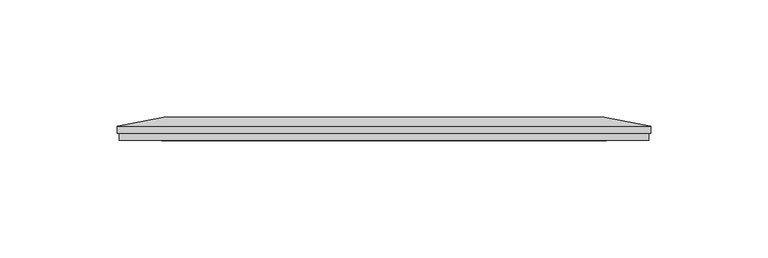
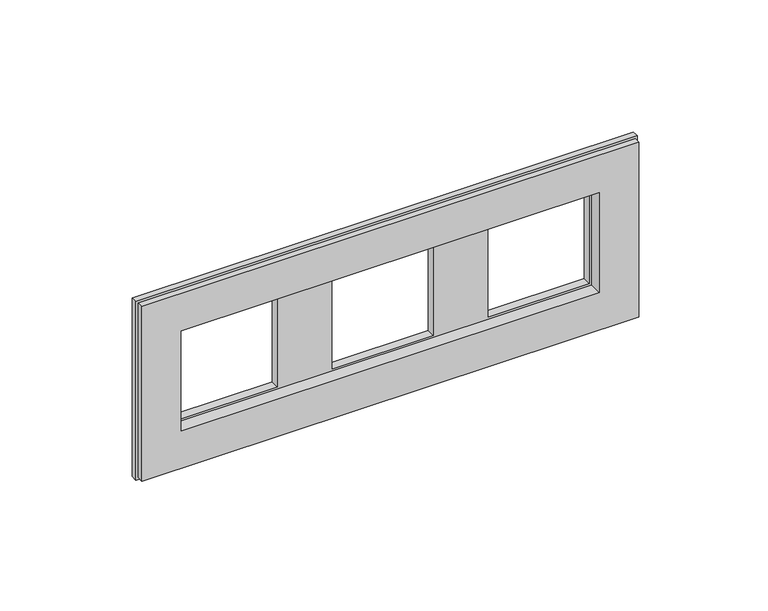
"""IFC4 building model written with IfcOpenShell, lengths in millimetres: proxy geometry, IEK_Skandy_Рамка : x3_SK-F03B."""

from ifc_helpers import new_model, si_unit, origin, place, context, project, spatial, faceted_brep, source, transform, mapped, element, save


def electrical_fixtures_dbfd30bd(model_context):
    return source(origin(), model_context, "Body", "Brep", [
        faceted_brep([(-184.0, 0.0, 42.0), (-184.0, 0.0, -42.0), (42.0, 0.0, -42.0), (42.0, 0.0, 42.0), (-166.0, 0.0, 24.0), (24.0, 0.0, 24.0), (24.0, 0.0, -24.0), (-166.0, 0.0, -24.0), (-184.0, 3.0, 42.0), (-184.0, 3.0, -42.0), (42.0, 3.0, -42.0), (42.0, 3.0, 42.0), (-166.0, 6.0, 24.0), (24.0, 6.0, 24.0), (24.0, 6.0, -24.0), (-166.0, 6.0, -24.0), (-23.0, 10.0, 23.0), (-23.0, 10.0, -23.0), (-48.0, 10.0, -23.0), (-48.0, 10.0, 23.0), (-119.0, 10.0, -23.0), (-119.0, 10.0, 23.0), (-94.0, 10.0, 23.0), (-94.0, 10.0, -23.0), (-23.0, 6.0, 23.0), (23.0, 6.0, 23.0), (23.0, 6.0, -23.0), (-23.0, 6.0, -23.0), (-165.0, 6.0, 23.0), (-119.0, 6.0, 23.0), (-119.0, 6.0, -23.0), (-165.0, 6.0, -23.0), (-94.0, 6.0, 23.0), (-48.0, 6.0, 23.0), (-48.0, 6.0, -23.0), (-94.0, 6.0, -23.0), (43.0, 6.0, 43.0), (23.0, 10.0, 23.0), (-165.0, 10.0, 23.0), (-185.0, 6.0, 43.0), (43.0, 6.0, -43.0), (23.0, 10.0, -23.0), (-185.0, 6.0, -43.0), (-165.0, 10.0, -23.0), (-185.0, 3.0, 43.0), (-185.0, 3.0, -43.0), (43.0, 3.0, -43.0), (43.0, 3.0, 43.0)], [[[0, 1, 2, 3], [4, 5, 6, 7]], [[1, 0, 8, 9]], [[2, 1, 9, 10]], [[3, 2, 10, 11]], [[0, 3, 11, 8]], [[5, 4, 12, 13]], [[6, 5, 13, 14]], [[7, 6, 14, 15]], [[4, 7, 15, 12]], [[16, 17, 18, 19]], [[20, 21, 22, 23]], [[13, 12, 15, 14], [24, 25, 26, 27], [28, 29, 30, 31], [32, 33, 34, 35]], [[36, 37, 16, 19, 22, 21, 38, 39]], [[37, 36, 40, 41]], [[41, 40, 42, 43, 20, 23, 18, 17]], [[39, 38, 43, 42]], [[44, 45, 46, 47], [9, 8, 11, 10]], [[45, 44, 39, 42]], [[46, 45, 42, 40]], [[47, 46, 40, 36]], [[44, 47, 36, 39]], [[28, 38, 21, 29]], [[29, 21, 20, 30]], [[30, 20, 43, 31]], [[38, 28, 31, 43]], [[24, 16, 37, 25]], [[25, 37, 41, 26]], [[26, 41, 17, 27]], [[16, 24, 27, 17]], [[32, 22, 19, 33]], [[33, 19, 18, 34]], [[34, 18, 23, 35]], [[22, 32, 35, 23]]]),
    ])


if __name__ == "__main__":
    model = new_model("IFC4")
    model_context = context("Model", 3, world=origin())
    ifc_project = project(units=[si_unit("LENGTHUNIT", "METRE", prefix="MILLI")], contexts=[model_context])
    site = spatial("IfcSite", under=ifc_project)
    building = spatial("IfcBuilding", under=site)
    placement = place(None, origin())
    electrical_fixtures_shape = electrical_fixtures_dbfd30bd(model_context)
    element("IfcBuildingElementProxy", 1, Name="IEK_Skandy_Рамка : x3_SK-F03B", ObjectType="IEK_Skandy_Рамка : x3_SK-F03B", at=placement, inside=building, context=model_context, shape_type="MappedRepresentation", body=[
        mapped(electrical_fixtures_shape, transform((0.0, 0.0, 0.0), x_axis=(1.0, 0.0, 0.0), y_axis=(0.0, 1.0, 0.0), z_axis=(0.0, 0.0, 1.0))),
    ])
    save(model, "model.ifc")
